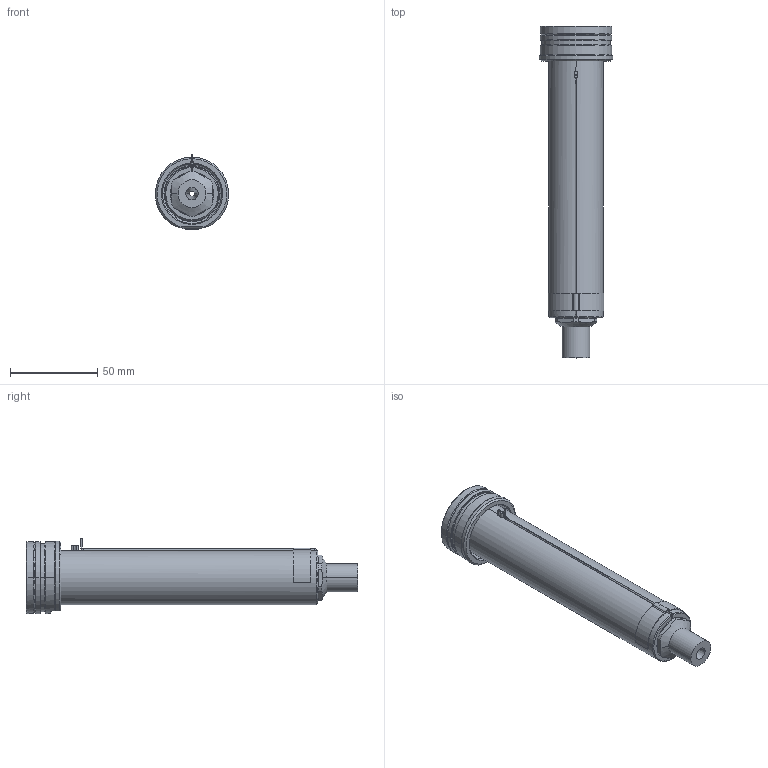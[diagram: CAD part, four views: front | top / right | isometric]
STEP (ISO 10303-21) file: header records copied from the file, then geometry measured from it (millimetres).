
FILE_DESCRIPTION((''),'2;1');
FILE_NAME('EO12_SG_ESG_160_SW','2024-02-19T12:31:29',('sundharh'),(''),'CREO PARAMETRIC BY PTC INC, 2023154','CREO PARAMETRIC BY PTC INC, 2023154','');
FILE_SCHEMA(('CONFIG_CONTROL_DESIGN'));
Length unit declared in the file: millimetre
Products named in the file (1): EO12_SG_ESG_160_SW
Bounding box: 41.85 x 190 x 43 mm (x, y, z)
Volume: 121383.8 mm3; surface area: 31866.9 mm2
Topology: 2 solids, 3 shells, 176 faces, 438 edges, 266 vertices
Faces by surface type: cylinder 65, plane 45, cone 33, torus 27, sphere 3, bspline 3
Entity records: 5936 total; most frequent: CARTESIAN_POINT 1656, DIRECTION 948, ORIENTED_EDGE 864, EDGE_CURVE 432, AXIS2_PLACEMENT_3D 396, VERTEX_POINT 266, CIRCLE 223, EDGE_LOOP 192
